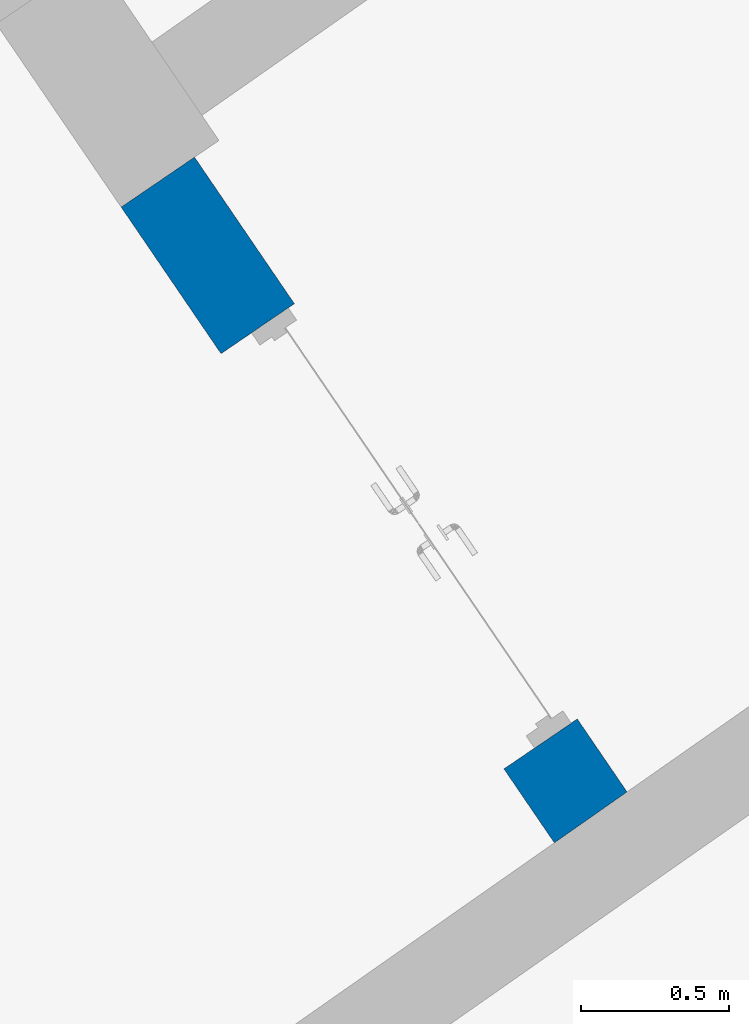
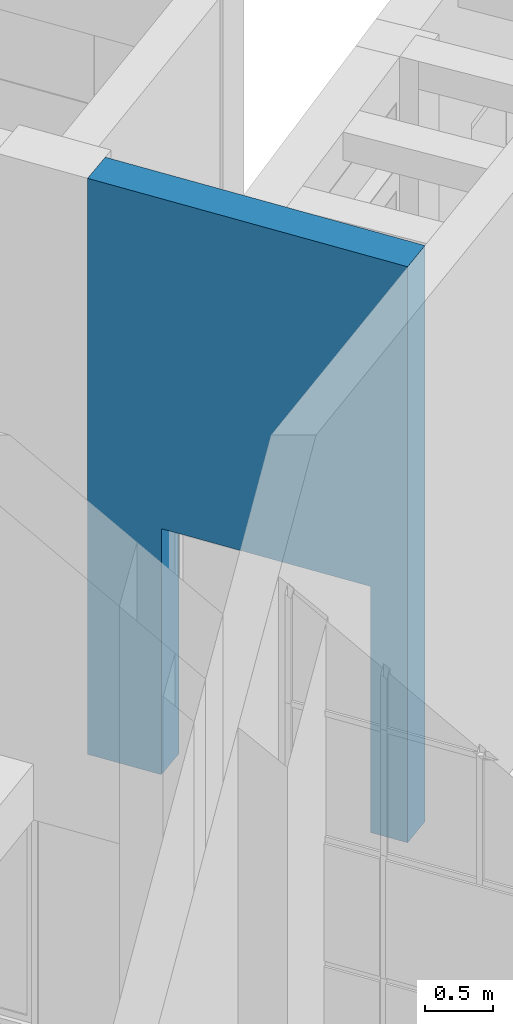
# One storey, part 97 of 157: 1 wall, 1 opening.
"""IFC2X3 building model written with IfcOpenShell, lengths in millimetres."""

from ifc_helpers import new_model, entity, si_unit, converted_unit, derived_unit, direction, frame, frame_2d, origin, place, context, subcontext, project, spatial, polyline, rectangle, outline, extrude, material, layer, layer_set, layer_usage, type_object, element, save


model = new_model("IFC2X3")

# Units and contexts
model_context = context("Model", 3, precision=0.01, world=origin(), true_north=direction((6.123031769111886e-17, 1.0)))
body_context = subcontext(model_context, "Body", "Model", "MODEL_VIEW")
ifc_project = project(units=[si_unit("LENGTHUNIT", "METRE", prefix="MILLI"), si_unit("AREAUNIT", "SQUARE_METRE"), si_unit("VOLUMEUNIT", "CUBIC_METRE"), converted_unit("PLANEANGLEUNIT", "DEGREE", entity("IfcRatioMeasure", 0.017453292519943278), si_unit("PLANEANGLEUNIT", "RADIAN"), dimensions=[0, 0, 0, 0, 0, 0, 0]), si_unit("MASSUNIT", "GRAM", prefix="KILO"), derived_unit("MASSDENSITYUNIT", [(si_unit("MASSUNIT", "GRAM", prefix="KILO"), 1), (si_unit("LENGTHUNIT", "METRE"), -3)]), derived_unit("MOMENTOFINERTIAUNIT", [(si_unit("LENGTHUNIT", "METRE"), 4)]), si_unit("TIMEUNIT", "SECOND"), si_unit("FREQUENCYUNIT", "HERTZ"), si_unit("THERMODYNAMICTEMPERATUREUNIT", "DEGREE_CELSIUS"), derived_unit("THERMALTRANSMITTANCEUNIT", [(si_unit("MASSUNIT", "GRAM", prefix="KILO"), 1), (si_unit("THERMODYNAMICTEMPERATUREUNIT", "KELVIN"), -1), (si_unit("TIMEUNIT", "SECOND"), -3)]), derived_unit("THERMALCONDUCTANCEUNIT", [(si_unit("MASSUNIT", "GRAM", prefix="KILO"), 1), (si_unit("LENGTHUNIT", "METRE"), 1), (si_unit("THERMODYNAMICTEMPERATUREUNIT", "KELVIN"), -1), (si_unit("TIMEUNIT", "SECOND"), -3)]), derived_unit("VOLUMETRICFLOWRATEUNIT", [(si_unit("LENGTHUNIT", "METRE"), 3), (si_unit("TIMEUNIT", "SECOND"), -1)]), derived_unit("MASSFLOWRATEUNIT", [(si_unit("MASSUNIT", "GRAM", prefix="KILO"), 1), (si_unit("TIMEUNIT", "SECOND"), -1)]), derived_unit("ROTATIONALFREQUENCYUNIT", [(si_unit("TIMEUNIT", "SECOND"), -1)]), si_unit("ELECTRICCURRENTUNIT", "AMPERE"), si_unit("ELECTRICVOLTAGEUNIT", "VOLT"), si_unit("POWERUNIT", "WATT"), converted_unit("FORCEUNIT", "KIP", entity("IfcRatioMeasure", 2.088543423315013e-05), si_unit("FORCEUNIT", "NEWTON"), dimensions=[1, 1, -2, 0, 0, 0, 0]), si_unit("ILLUMINANCEUNIT", "LUX"), si_unit("LUMINOUSFLUXUNIT", "LUMEN"), si_unit("LUMINOUSINTENSITYUNIT", "CANDELA"), derived_unit("USERDEFINED", [(si_unit("MASSUNIT", "GRAM", prefix="KILO"), -1), (si_unit("LENGTHUNIT", "METRE"), -2), (si_unit("TIMEUNIT", "SECOND"), 3), (si_unit("LUMINOUSFLUXUNIT", "LUMEN"), 1)]), derived_unit("USERDEFINED", [(si_unit("MASSUNIT", "GRAM", prefix="KILO"), 1), (si_unit("LENGTHUNIT", "METRE"), 3), (si_unit("TIMEUNIT", "SECOND"), -3), (si_unit("ELECTRICCURRENTUNIT", "AMPERE"), -2)]), derived_unit("USERDEFINED", [(si_unit("LENGTHUNIT", "METRE"), 2), (si_unit("TIMEUNIT", "SECOND"), -2)]), derived_unit("SOUNDPOWERUNIT", [(si_unit("MASSUNIT", "GRAM", prefix="KILO"), 1), (si_unit("LENGTHUNIT", "METRE"), 2), (si_unit("TIMEUNIT", "SECOND"), -3)]), derived_unit("SOUNDPRESSUREUNIT", [(si_unit("MASSUNIT", "GRAM", prefix="KILO"), 1), (si_unit("LENGTHUNIT", "METRE"), -1), (si_unit("TIMEUNIT", "SECOND"), -2)]), derived_unit("LINEARVELOCITYUNIT", [(si_unit("LENGTHUNIT", "METRE"), 1), (si_unit("TIMEUNIT", "SECOND"), -1)]), si_unit("PRESSUREUNIT", "PASCAL"), derived_unit("USERDEFINED", [(si_unit("LENGTHUNIT", "METRE"), -2), (si_unit("MASSUNIT", "GRAM", prefix="KILO"), 1), (si_unit("TIMEUNIT", "SECOND"), -2)]), derived_unit("LINEARFORCEUNIT", [(si_unit("MASSUNIT", "GRAM", prefix="KILO"), 1), (si_unit("LENGTHUNIT", "METRE"), 1), (si_unit("TIMEUNIT", "SECOND"), -2), (si_unit("LENGTHUNIT", "METRE"), -1)]), derived_unit("PLANARFORCEUNIT", [(si_unit("MASSUNIT", "GRAM", prefix="KILO"), 1), (si_unit("LENGTHUNIT", "METRE"), 1), (si_unit("TIMEUNIT", "SECOND"), -2), (si_unit("LENGTHUNIT", "METRE"), -2)]), derived_unit("SPECIFICHEATCAPACITYUNIT", [(si_unit("LENGTHUNIT", "METRE"), 2), (si_unit("TIMEUNIT", "SECOND"), -2), (si_unit("THERMODYNAMICTEMPERATUREUNIT", "KELVIN"), -1)]), derived_unit("VAPORPERMEABILITYUNIT", [(si_unit("TIMEUNIT", "SECOND"), 1), (si_unit("LENGTHUNIT", "METRE"), -1)]), derived_unit("DYNAMICVISCOSITYUNIT", [(si_unit("MASSUNIT", "GRAM", prefix="KILO"), 1), (si_unit("LENGTHUNIT", "METRE"), -1), (si_unit("TIMEUNIT", "SECOND"), -1)]), derived_unit("THERMALEXPANSIONCOEFFICIENTUNIT", [(si_unit("THERMODYNAMICTEMPERATUREUNIT", "KELVIN"), -1)])], contexts=[model_context])

# Site, building, storey
site_placement = place(None, frame((0.0, 0.0, 0.0), z_axis=(0.0, 0.0, 1.0), x_axis=(0.8191520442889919, 0.5735764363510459, 0.0)))
site = spatial("IfcSite", under=ifc_project, at=site_placement, Name="Default", CompositionType="ELEMENT")
building_placement = place(site_placement, origin())
building = spatial("IfcBuilding", under=site, at=building_placement, CompositionType="ELEMENT")
storey_placement = place(building_placement, origin())
storey = spatial("IfcBuildingStorey", under=building, at=storey_placement, Name="1.EG +0.00", CompositionType="ELEMENT", Elevation=-4.331468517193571e-12)

# Wall, opening
ifc_material = material(Name="Analytical Wall Surface_CJC")
ifc_layer = layer(ifc_material, 300.0)
ifc_layer_set = layer_set([ifc_layer], Name="Basic Wall:Wand_Innen_30")
ifc_layer_usage = layer_usage(ifc_layer_set, "AXIS2", "NEGATIVE", 150.0)
wall_type = type_object("IfcWallType", Name="Basic Wall:Wand_Innen_30", PredefinedType="STANDARD", material=ifc_layer_set)
wall_placement = place(storey_placement, frame((-206830.57626683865, 164119.44947620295, 0.0), z_axis=(0.0, 0.0, 1.0), x_axis=(0.012729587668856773, 0.9999189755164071, 0.0)))
wall = element("IfcWallStandardCase", 1, at=wall_placement, inside=storey, type_object=wall_type, material=ifc_layer_usage, Name="Basic Wall:Wand_Innen_30", ObjectType="Basic Wall:Wand_Innen_30", context=body_context, shape_type="SweptSolid", body=[
    extrude(outline(polyline([(3.819185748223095, -150.0), (2602.7571655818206, -150.0), (2602.7571655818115, 150.0), (0.0, 150.0), (3.819185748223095, -150.0)])), origin(), (0.0, 0.0, 1.0), 5150.000000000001),
])
opening_placement = place(wall_placement, frame((2002.7571655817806, 150.0, 0.0)))
element("IfcOpeningElement", 2, at=opening_placement, cuts=wall, Name="M_Door-Passage-Double-Flush:160x210:1", ObjectType="Opening", context=body_context, shape_type="SweptSolid", body=[
    extrude(rectangle(XDim=2200.0, YDim=1699.9999999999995, at=frame_2d((1100.0, 849.9999999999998), x_axis=(1.0, 0.0))), frame((0.0, 0.0, 0.0), z_axis=(0.0, -1.0, 0.0), x_axis=(0.0, 0.0, 1.0)), (0.0, 0.0, 1.0), 299.9999999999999),
])

save(model, "model.ifc")
